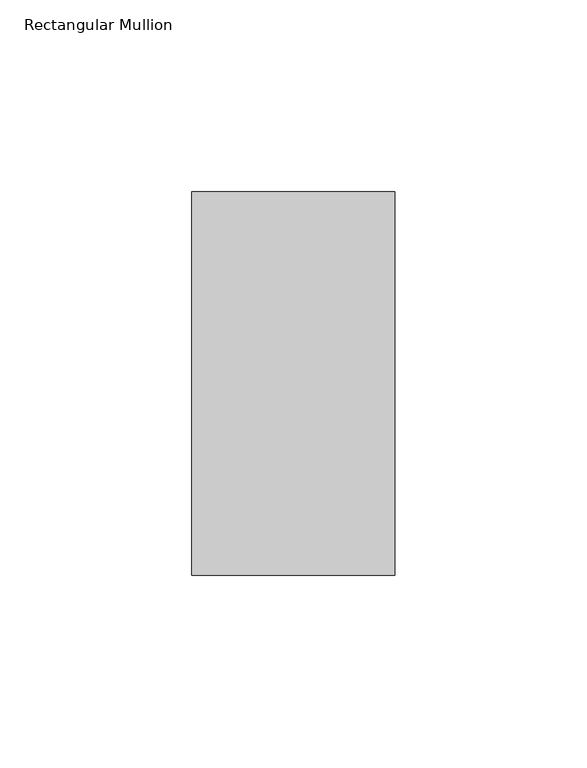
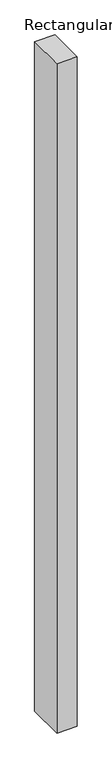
"""IFC4 building model written with IfcOpenShell, lengths in millimetres: member geometry, Rectangular Mullion : IMP219 100mm x 53mm Horizontal."""

from ifc_helpers import new_model, si_unit, frame, origin, place, context, project, spatial, polyline, outline, extrude, source, transform, mapped, element, save


def rectangular_mullion_68b1eb58(model_context):
    return source(origin(), model_context, "Body", "SweptSolid", [
        extrude(outline(polyline([(-53.0, -50.0), (-53.0, 50.0), (0.0, 50.0), (0.0, -50.0), (-53.0, -50.0)])), frame((0.0, 0.0, -1845.5), z_axis=(0.0, 0.0, 1.0), x_axis=(1.0, 0.0, 0.0)), (0.0, 0.0, 1.0), 1845.5),
    ])


if __name__ == "__main__":
    model = new_model("IFC4")
    model_context = context("Model", 3, world=origin())
    ifc_project = project(units=[si_unit("LENGTHUNIT", "METRE", prefix="MILLI")], contexts=[model_context])
    site = spatial("IfcSite", under=ifc_project)
    building = spatial("IfcBuilding", under=site)
    placement = place(None, origin())
    rectangular_mullion_shape = rectangular_mullion_68b1eb58(model_context)
    element("IfcMember", 1, ObjectType="Rectangular Mullion : IMP219 100mm x 53mm Horizontal", at=placement, inside=building, context=model_context, shape_type="MappedRepresentation", body=[
        mapped(rectangular_mullion_shape, transform((0.0, 0.0, 0.0), x_axis=(1.0, 0.0, 0.0), y_axis=(0.0, 1.0, 0.0), z_axis=(0.0, 0.0, 1.0))),
    ])
    save(model, "model.ifc")
